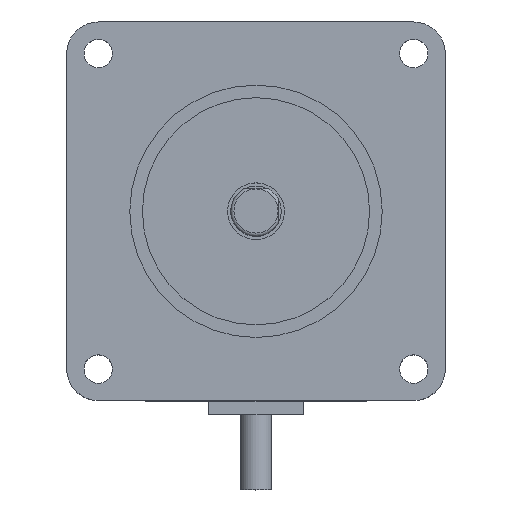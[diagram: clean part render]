
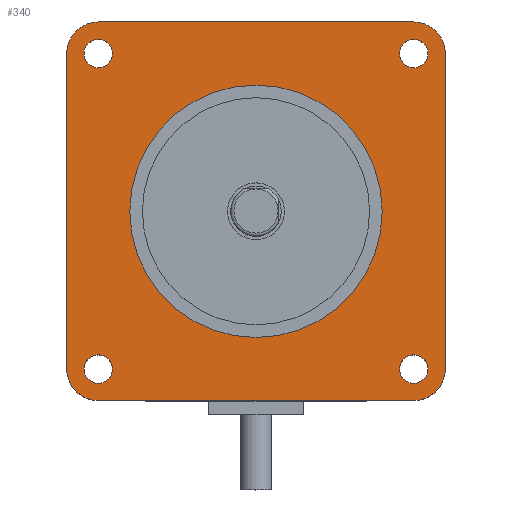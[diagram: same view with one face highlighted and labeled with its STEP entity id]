
A CAD part, top view. The second image highlights one B-rep face of the part: STEP entity #340.
In plain terms, the highlighted planar face has unit normal (0, 0, 1).
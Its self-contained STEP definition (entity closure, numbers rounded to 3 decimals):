
#340=ADVANCED_FACE('',(#1144,#1145,#1146,#1147,#1148,#1149),#504,.T.);
#504=PLANE('',#3158);
#608=LINE('',#4464,#881);
#609=LINE('',#4469,#882);
#610=LINE('',#4473,#883);
#611=LINE('',#4477,#884);
#881=VECTOR('',#3532,1.);
#882=VECTOR('',#3535,1.);
#883=VECTOR('',#3538,1.);
#884=VECTOR('',#3541,1.);
#1144=FACE_BOUND('',#1185,.T.);
#1145=FACE_BOUND('',#1186,.T.);
#1146=FACE_BOUND('',#1187,.T.);
#1147=FACE_BOUND('',#1188,.T.);
#1148=FACE_BOUND('',#1189,.T.);
#1149=FACE_BOUND('',#1190,.T.);
#1185=EDGE_LOOP('',(#1408));
#1186=EDGE_LOOP('',(#1409));
#1187=EDGE_LOOP('',(#1410));
#1188=EDGE_LOOP('',(#1411,#1412,#1413,#1414,#1415,#1416,#1417,#1418));
#1189=EDGE_LOOP('',(#1419));
#1190=EDGE_LOOP('',(#1420));
#1408=ORIENTED_EDGE('',*,*,#2571,.F.);
#1409=ORIENTED_EDGE('',*,*,#2572,.F.);
#1410=ORIENTED_EDGE('',*,*,#2573,.T.);
#1411=ORIENTED_EDGE('',*,*,#2574,.T.);
#1412=ORIENTED_EDGE('',*,*,#2575,.T.);
#1413=ORIENTED_EDGE('',*,*,#2576,.T.);
#1414=ORIENTED_EDGE('',*,*,#2577,.T.);
#1415=ORIENTED_EDGE('',*,*,#2578,.T.);
#1416=ORIENTED_EDGE('',*,*,#2579,.T.);
#1417=ORIENTED_EDGE('',*,*,#2580,.T.);
#1418=ORIENTED_EDGE('',*,*,#2581,.T.);
#1419=ORIENTED_EDGE('',*,*,#2582,.F.);
#1420=ORIENTED_EDGE('',*,*,#2583,.T.);
#2276=VERTEX_POINT('',#4459);
#2277=VERTEX_POINT('',#4461);
#2278=VERTEX_POINT('',#4463);
#2279=VERTEX_POINT('',#4465);
#2280=VERTEX_POINT('',#4466);
#2281=VERTEX_POINT('',#4468);
#2282=VERTEX_POINT('',#4470);
#2283=VERTEX_POINT('',#4472);
#2284=VERTEX_POINT('',#4474);
#2285=VERTEX_POINT('',#4476);
#2286=VERTEX_POINT('',#4478);
#2287=VERTEX_POINT('',#4481);
#2288=VERTEX_POINT('',#4483);
#2571=EDGE_CURVE('',#2276,#2276,#2985,.T.);
#2572=EDGE_CURVE('',#2277,#2277,#2986,.T.);
#2573=EDGE_CURVE('',#2278,#2278,#2987,.T.);
#2574=EDGE_CURVE('',#2279,#2280,#608,.T.);
#2575=EDGE_CURVE('',#2280,#2281,#2988,.T.);
#2576=EDGE_CURVE('',#2281,#2282,#609,.T.);
#2577=EDGE_CURVE('',#2282,#2283,#2989,.T.);
#2578=EDGE_CURVE('',#2283,#2284,#610,.T.);
#2579=EDGE_CURVE('',#2284,#2285,#2990,.T.);
#2580=EDGE_CURVE('',#2285,#2286,#611,.T.);
#2581=EDGE_CURVE('',#2286,#2279,#2991,.T.);
#2582=EDGE_CURVE('',#2287,#2287,#2992,.T.);
#2583=EDGE_CURVE('',#2288,#2288,#2993,.T.);
#2985=CIRCLE('',#3149,2.25);
#2986=CIRCLE('',#3150,2.25);
#2987=CIRCLE('',#3151,20.);
#2988=CIRCLE('',#3152,5.);
#2989=CIRCLE('',#3153,5.);
#2990=CIRCLE('',#3154,5.);
#2991=CIRCLE('',#3155,5.);
#2992=CIRCLE('',#3156,2.25);
#2993=CIRCLE('',#3157,2.25);
#3149=AXIS2_PLACEMENT_3D('',#4458,#3526,#3527);
#3150=AXIS2_PLACEMENT_3D('',#4460,#3528,#3529);
#3151=AXIS2_PLACEMENT_3D('',#4462,#3530,#3531);
#3152=AXIS2_PLACEMENT_3D('',#4467,#3533,#3534);
#3153=AXIS2_PLACEMENT_3D('',#4471,#3536,#3537);
#3154=AXIS2_PLACEMENT_3D('',#4475,#3539,#3540);
#3155=AXIS2_PLACEMENT_3D('',#4479,#3542,#3543);
#3156=AXIS2_PLACEMENT_3D('',#4480,#3544,#3545);
#3157=AXIS2_PLACEMENT_3D('',#4482,#3546,#3547);
#3158=AXIS2_PLACEMENT_3D('',#4484,#3548,#3549);
#3526=DIRECTION('',(0.,0.,1.));
#3527=DIRECTION('',(1.,0.,0.));
#3528=DIRECTION('',(0.,0.,1.));
#3529=DIRECTION('',(1.,0.,0.));
#3530=DIRECTION('',(0.,0.,-1.));
#3531=DIRECTION('',(1.,0.,0.));
#3532=DIRECTION('',(-1.,0.,0.));
#3533=DIRECTION('',(0.,0.,1.));
#3534=DIRECTION('',(1.,0.,0.));
#3535=DIRECTION('',(0.,-1.,0.));
#3536=DIRECTION('',(0.,0.,1.));
#3537=DIRECTION('',(1.,0.,0.));
#3538=DIRECTION('',(1.,0.,0.));
#3539=DIRECTION('',(0.,0.,1.));
#3540=DIRECTION('',(1.,0.,0.));
#3541=DIRECTION('',(0.,1.,0.));
#3542=DIRECTION('',(0.,0.,1.));
#3543=DIRECTION('',(1.,0.,0.));
#3544=DIRECTION('',(0.,0.,1.));
#3545=DIRECTION('',(1.,0.,0.));
#3546=DIRECTION('',(0.,0.,-1.));
#3547=DIRECTION('',(1.,0.,0.));
#3548=DIRECTION('',(0.,0.,1.));
#3549=DIRECTION('',(1.,0.,0.));
#4458=CARTESIAN_POINT('',(-25.,25.,0.));
#4459=CARTESIAN_POINT('',(-22.75,25.,0.));
#4460=CARTESIAN_POINT('',(25.,-25.,0.));
#4461=CARTESIAN_POINT('',(27.25,-25.,0.));
#4462=CARTESIAN_POINT('',(0.,0.,0.));
#4463=CARTESIAN_POINT('',(20.,0.,0.));
#4464=CARTESIAN_POINT('',(30.,30.,0.));
#4465=CARTESIAN_POINT('',(25.,30.,0.));
#4466=CARTESIAN_POINT('',(-25.,30.,0.));
#4467=CARTESIAN_POINT('',(-25.,25.,0.));
#4468=CARTESIAN_POINT('',(-30.,25.,0.));
#4469=CARTESIAN_POINT('',(-30.,30.,0.));
#4470=CARTESIAN_POINT('',(-30.,-25.,0.));
#4471=CARTESIAN_POINT('',(-25.,-25.,0.));
#4472=CARTESIAN_POINT('',(-25.,-30.,0.));
#4473=CARTESIAN_POINT('',(-30.,-30.,0.));
#4474=CARTESIAN_POINT('',(25.,-30.,0.));
#4475=CARTESIAN_POINT('',(25.,-25.,0.));
#4476=CARTESIAN_POINT('',(30.,-25.,0.));
#4477=CARTESIAN_POINT('',(30.,-30.,0.));
#4478=CARTESIAN_POINT('',(30.,25.,0.));
#4479=CARTESIAN_POINT('',(25.,25.,0.));
#4480=CARTESIAN_POINT('',(25.,25.,0.));
#4481=CARTESIAN_POINT('',(27.25,25.,0.));
#4482=CARTESIAN_POINT('',(-25.,-25.,0.));
#4483=CARTESIAN_POINT('',(-22.75,-25.,0.));
#4484=CARTESIAN_POINT('',(30.,-30.,0.));
